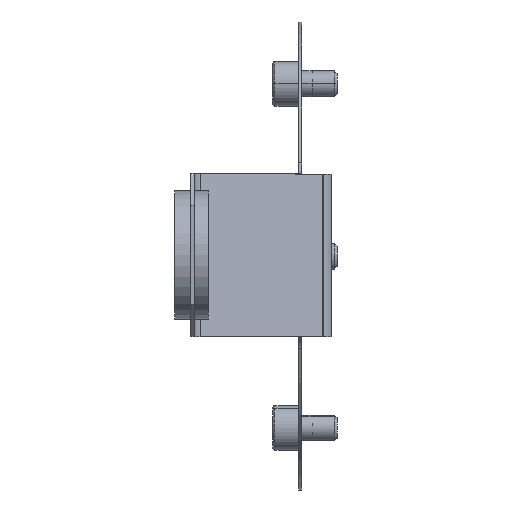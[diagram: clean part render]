
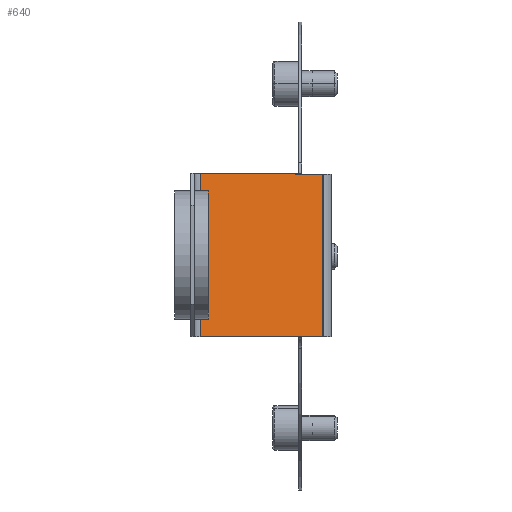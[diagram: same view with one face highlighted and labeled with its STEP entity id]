
A CAD part, top view. The second image highlights one B-rep face of the part: STEP entity #640.
In plain terms, the highlighted planar face has unit normal (0.5, 0, 0.866).
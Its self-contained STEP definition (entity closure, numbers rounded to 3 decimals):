
#640=ADVANCED_FACE('',(#1236),#1237,.T.);
#1236=FACE_OUTER_BOUND('',#1839,.T.);
#1237=PLANE('',#1840);
#1839=EDGE_LOOP('',(#3158,#3159,#3160,#3161));
#1840=AXIS2_PLACEMENT_3D('',#3162,#3163,#3164);
#3158=ORIENTED_EDGE('',*,*,#3483,.F.);
#3159=ORIENTED_EDGE('',*,*,#3998,.F.);
#3160=ORIENTED_EDGE('',*,*,#3671,.F.);
#3161=ORIENTED_EDGE('',*,*,#3553,.T.);
#3162=CARTESIAN_POINT('',(-6.175,0.0,55.422));
#3163=DIRECTION('',(0.5,0.0,0.866));
#3164=DIRECTION('',(0.866,0.0,-0.5));
#3483=EDGE_CURVE('',#4086,#4088,#4089,.T.);
#3553=EDGE_CURVE('',#4213,#4088,#4214,.T.);
#3671=EDGE_CURVE('',#4213,#4411,#4412,.T.);
#3998=EDGE_CURVE('',#4411,#4086,#4855,.T.);
#4086=VERTEX_POINT('',#4957);
#4088=VERTEX_POINT('',#4959);
#4089=LINE('',#4960,#4961);
#4213=VERTEX_POINT('',#5107);
#4214=LINE('',#5108,#5109);
#4411=VERTEX_POINT('',#5359);
#4412=LINE('',#5360,#5361);
#4855=LINE('',#5903,#5904);
#4957=CARTESIAN_POINT('',(-15.8,12.7,60.979));
#4959=CARTESIAN_POINT('',(3.45,12.7,49.865));
#4960=CARTESIAN_POINT('',(-14.071,12.7,59.981));
#4961=VECTOR('',#5994,1.);
#5107=CARTESIAN_POINT('',(3.45,-12.7,49.865));
#5108=CARTESIAN_POINT('',(3.45,0.0,49.865));
#5109=VECTOR('',#6116,1.0);
#5359=CARTESIAN_POINT('',(-15.8,-12.7,60.979));
#5360=CARTESIAN_POINT('',(-14.071,-12.7,59.981));
#5361=VECTOR('',#6287,1.);
#5903=CARTESIAN_POINT('',(-15.8,0.0,60.979));
#5904=VECTOR('',#6762,1.0);
#5994=DIRECTION('',(0.866,0.0,-0.5));
#6116=DIRECTION('',(0.0,1.0,0.0));
#6287=DIRECTION('',(-0.866,0.0,0.5));
#6762=DIRECTION('',(0.0,1.0,0.0));
